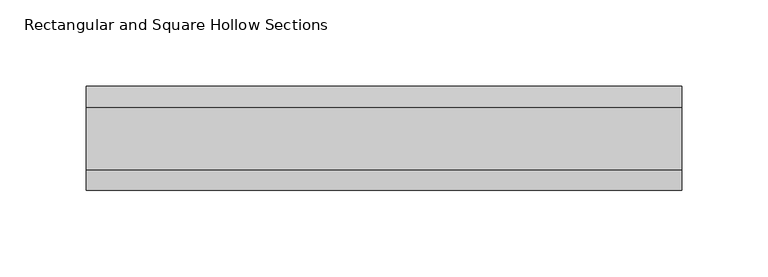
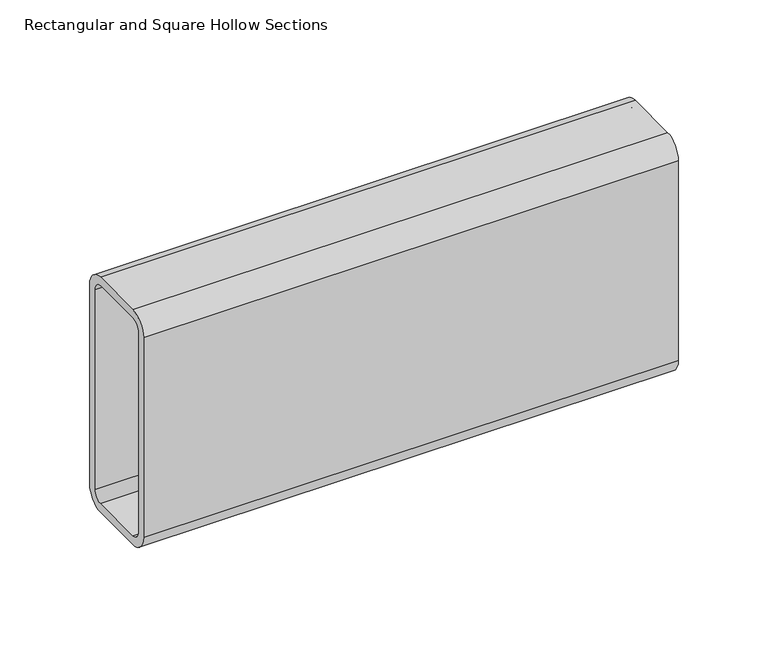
"""IFC4 building model written with IfcOpenShell, lengths in millimetres: beam geometry, Rectangular and Square Hollow Sections : TREC160x60x6."""

from ifc_helpers import new_model, si_unit, point, frame, frame_2d, origin, place, context, project, spatial, polyline, circle_curve, trimmed, segment, composite_curve, outline, extrude, source, transform, mapped, element, save


def rectangular_and_square_hollow_sections_1cccfdef(model_context):
    return source(origin(), model_context, "Body", "SweptSolid", [
        extrude(outline(composite_curve([segment(polyline([(30.0, 68.0), (30.0, -68.0)]), True, "CONTINUOUS"), segment(trimmed(circle_curve(frame_2d((18.0, -68.0)), 12.0), [point((30.0, -68.0))], [point((18.0, -80.0))], False, "CARTESIAN"), True, "CONTINUOUS"), segment(polyline([(18.0, -80.0), (-18.0, -80.0)]), True, "CONTINUOUS"), segment(trimmed(circle_curve(frame_2d((-18.0, -68.0)), 12.0), [point((-18.0, -80.0))], [point((-30.0, -68.0))], False, "CARTESIAN"), True, "CONTINUOUS"), segment(polyline([(-30.0, -68.0), (-30.0, 68.0)]), True, "CONTINUOUS"), segment(trimmed(circle_curve(frame_2d((-18.0, 68.0)), 12.0), [point((-30.0, 68.0))], [point((-18.0, 80.0))], False, "CARTESIAN"), True, "CONTINUOUS"), segment(polyline([(-18.0, 80.0), (18.0, 80.0)]), True, "CONTINUOUS"), segment(trimmed(circle_curve(frame_2d((18.0, 68.0)), 12.0), [point((18.0, 80.0))], [point((30.0, 68.0))], False, "CARTESIAN"), True, "CONTINUOUS")], self_intersect=False), holes=[composite_curve([segment(trimmed(circle_curve(frame_2d((-18.0, 68.0)), 6.0), [point((-18.0, 74.0))], [point((-24.0, 68.0))], True, "CARTESIAN"), True, "CONTINUOUS"), segment(polyline([(-24.0, 68.0), (-24.0, -68.0)]), True, "CONTINUOUS"), segment(trimmed(circle_curve(frame_2d((-18.0, -68.0)), 6.0), [point((-24.0, -68.0))], [point((-18.0, -74.0))], True, "CARTESIAN"), True, "CONTINUOUS"), segment(polyline([(-18.0, -74.0), (18.0, -74.0)]), True, "CONTINUOUS"), segment(trimmed(circle_curve(frame_2d((18.0, -68.0)), 6.0), [point((18.0, -74.0))], [point((24.0, -68.0))], True, "CARTESIAN"), True, "CONTINUOUS"), segment(polyline([(24.0, -68.0), (24.0, 68.0)]), True, "CONTINUOUS"), segment(trimmed(circle_curve(frame_2d((18.0, 68.0)), 6.0), [point((24.0, 68.0))], [point((18.0, 74.0))], True, "CARTESIAN"), True, "CONTINUOUS"), segment(polyline([(18.0, 74.0), (-18.0, 74.0)]), True, "CONTINUOUS")], self_intersect=False)]), frame((-178.5, 0.0, 0.0), z_axis=(1.0, 0.0, 0.0), x_axis=(0.0, 1.0, 0.0)), (0.0, 0.0, 1.0), 344.0),
    ])


if __name__ == "__main__":
    model = new_model("IFC4")
    model_context = context("Model", 3, world=origin())
    ifc_project = project(units=[si_unit("LENGTHUNIT", "METRE", prefix="MILLI")], contexts=[model_context])
    site = spatial("IfcSite", under=ifc_project)
    building = spatial("IfcBuilding", under=site)
    placement = place(None, origin())
    rectangular_and_square_hollow_sections_shape = rectangular_and_square_hollow_sections_1cccfdef(model_context)
    element("IfcBeam", 1, ObjectType="Rectangular and Square Hollow Sections : TREC160x60x6", at=placement, inside=building, context=model_context, shape_type="MappedRepresentation", body=[
        mapped(rectangular_and_square_hollow_sections_shape, transform((0.0, 0.0, 0.0), x_axis=(1.0, 0.0, 0.0), y_axis=(0.0, 1.0, 0.0), z_axis=(0.0, 0.0, 1.0))),
    ])
    save(model, "model.ifc")
